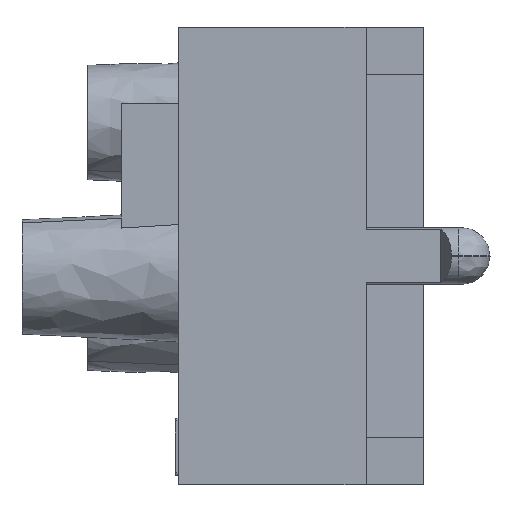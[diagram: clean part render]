
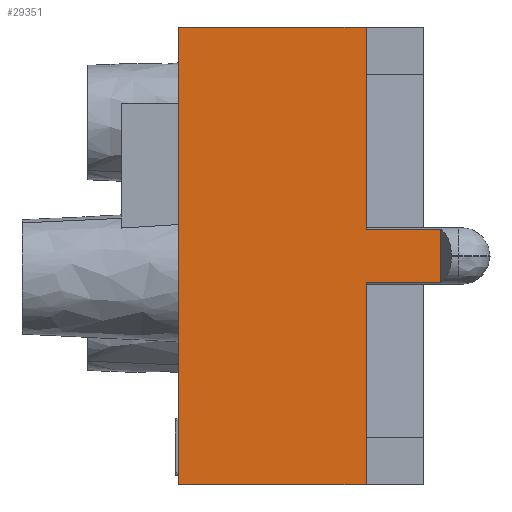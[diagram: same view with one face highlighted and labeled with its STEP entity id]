
A CAD part, left-side view. The second image highlights one B-rep face of the part: STEP entity #29351.
In plain terms, the highlighted planar face has unit normal (-1, 0, 0).
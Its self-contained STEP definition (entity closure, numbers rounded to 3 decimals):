
#13696=CARTESIAN_POINT(' ',(-11.25,3.45,0.));
#13697=VERTEX_POINT(' ',#13696);
#13711=CARTESIAN_POINT(' ',(-11.25,3.45,0.));
#13716=DIRECTION(' ',(0.,-1.,0.));
#13721=VECTOR(' ',#13716,1.);
#13726=LINE('',#13711,#13721);
#13731=CARTESIAN_POINT(' ',(-11.25,-6.4,0.));
#13732=VERTEX_POINT(' ',#13731);
#13736=EDGE_CURVE(' ',#13697,#13732,#13726,.T.);
#16616=CARTESIAN_POINT(' ',(-11.25,-6.4,-24.));
#16617=VERTEX_POINT(' ',#16616);
#16631=CARTESIAN_POINT(' ',(-11.25,3.45,-24.));
#16636=DIRECTION(' ',(0.,-1.,0.));
#16641=VECTOR(' ',#16636,1.);
#16646=LINE('',#16631,#16641);
#16651=CARTESIAN_POINT(' ',(-11.25,3.45,-24.));
#16652=VERTEX_POINT(' ',#16651);
#16656=EDGE_CURVE(' ',#16652,#16617,#16646,.T.);
#28611=CARTESIAN_POINT(' ',(-11.25,-6.4,-10.584));
#28616=DIRECTION(' ',(0.,0.,1.));
#28621=VECTOR(' ',#28616,1.);
#28626=LINE('',#28611,#28621);
#28631=CARTESIAN_POINT(' ',(-11.25,-6.4,-10.584));
#28632=VERTEX_POINT(' ',#28631);
#28636=EDGE_CURVE(' ',#28632,#13732,#28626,.T.);
#28896=CARTESIAN_POINT(' ',(-11.25,-6.4,-13.416));
#28897=VERTEX_POINT(' ',#28896);
#28911=CARTESIAN_POINT(' ',(-11.25,-6.4,-24.));
#28916=DIRECTION(' ',(0.,0.,1.));
#28921=VECTOR(' ',#28916,1.);
#28926=LINE('',#28911,#28921);
#28931=EDGE_CURVE(' ',#16617,#28897,#28926,.T.);
#29166=CARTESIAN_POINT(' ',(-11.25,3.45,-24.));
#29171=DIRECTION(' ',(-1.,0.,0.));
#29176=DIRECTION(' ',(0.,-1.,0.));
#29181=AXIS2_PLACEMENT_3D(' ',#29166,#29171,#29176);
#29186=PLANE(' ',#29181);
#29191=ORIENTED_EDGE(' ',*,*,#28931,.T.);
#29196=CARTESIAN_POINT(' ',(-11.25,-6.4,-13.416));
#29201=DIRECTION(' ',(0.,-1.,0.));
#29206=VECTOR(' ',#29201,1.);
#29211=LINE('',#29196,#29206);
#29216=CARTESIAN_POINT(' ',(-11.25,-10.3,-13.416));
#29217=VERTEX_POINT(' ',#29216);
#29221=EDGE_CURVE(' ',#28897,#29217,#29211,.T.);
#29226=ORIENTED_EDGE(' ',*,*,#29221,.T.);
#29231=CARTESIAN_POINT(' ',(-11.25,-10.3,-13.416));
#29236=DIRECTION(' ',(0.,0.,1.));
#29241=VECTOR(' ',#29236,1.);
#29246=LINE('',#29231,#29241);
#29251=CARTESIAN_POINT(' ',(-11.25,-10.3,-10.584));
#29252=VERTEX_POINT(' ',#29251);
#29256=EDGE_CURVE(' ',#29217,#29252,#29246,.T.);
#29261=ORIENTED_EDGE(' ',*,*,#29256,.T.);
#29266=CARTESIAN_POINT(' ',(-11.25,-10.3,-10.584));
#29271=DIRECTION(' ',(0.,1.,0.));
#29276=VECTOR(' ',#29271,1.);
#29281=LINE('',#29266,#29276);
#29286=EDGE_CURVE(' ',#29252,#28632,#29281,.T.);
#29291=ORIENTED_EDGE(' ',*,*,#29286,.T.);
#29296=ORIENTED_EDGE(' ',*,*,#28636,.T.);
#29301=ORIENTED_EDGE(' ',*,*,#13736,.F.);
#29306=CARTESIAN_POINT(' ',(-11.25,3.45,-24.));
#29311=DIRECTION(' ',(0.,0.,1.));
#29316=VECTOR(' ',#29311,1.);
#29321=LINE('',#29306,#29316);
#29326=EDGE_CURVE(' ',#16652,#13697,#29321,.T.);
#29331=ORIENTED_EDGE(' ',*,*,#29326,.F.);
#29336=ORIENTED_EDGE(' ',*,*,#16656,.T.);
#29341=EDGE_LOOP(' ',(#29191,#29226,#29261,#29291,#29296,#29301,#29331,#29336));
#29346=FACE_OUTER_BOUND(' ',#29341,.T.);
#29351=ADVANCED_FACE('',(#29346),#29186,.T.);
